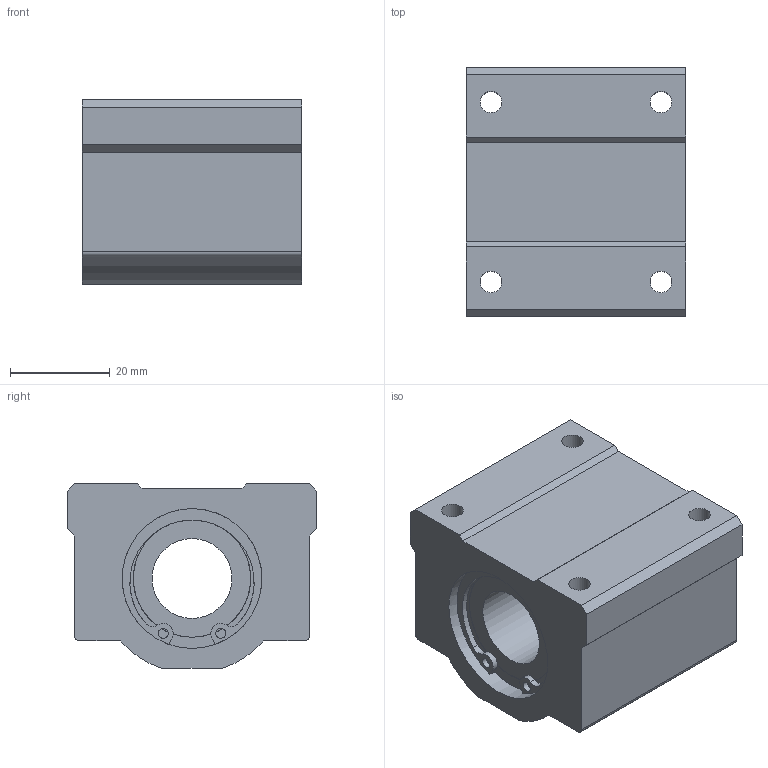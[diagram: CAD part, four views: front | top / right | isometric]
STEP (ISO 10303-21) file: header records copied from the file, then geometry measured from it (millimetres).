
FILE_DESCRIPTION((''),'2;1');
FILE_NAME('D:\製品 (図面)\カタログ用3D\リニアベアリング関連(改)\STEP形式\LH-B\LH16B.stp','2010-01-25T10:19:50',('Tsuchiya'),(''),'Autodesk Inventor 10','Autodesk Inventor 10','');
FILE_SCHEMA(('AUTOMOTIVE_DESIGN { 1 0 10303 214 1 1 1 1 }'));
Length unit declared in the file: millimetre
Products named in the file (1): LH16B
Bounding box: 44 x 50 x 37 mm (x, y, z)
Volume: 57209.1 mm3; surface area: 14890.5 mm2
Topology: 1 solids, 3 shells, 77 faces, 203 edges, 130 vertices
Faces by surface type: plane 40, cylinder 20, bspline 17
Full cylindrical faces by diameter (mm): 2 x2, 16 x1, 23.5 x2, 26.6 x2, 28 x4
Entity records: 2420 total; most frequent: CARTESIAN_POINT 575, DIRECTION 394, ORIENTED_EDGE 348, EDGE_CURVE 174, AXIS2_PLACEMENT_3D 159, VERTEX_POINT 118, EDGE_LOOP 114, CIRCLE 98
